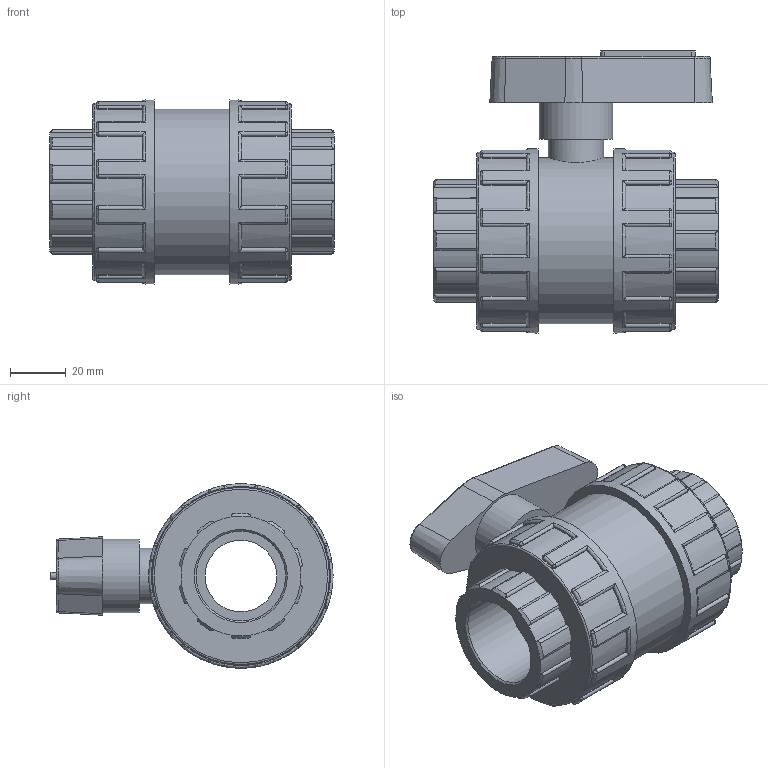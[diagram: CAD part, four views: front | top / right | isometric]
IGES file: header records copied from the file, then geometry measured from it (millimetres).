
Global section: file name: 11150032.ipt; native system: Autodesk Inventor 2015; preprocessor: unknown; author: KIM; date: 20171207.170214; units: millimetre
Bounding box: 102 x 100.98 x 66 mm (x, y, z)
Volume: 235490.9 mm3; surface area: 42076.2 mm2
Topology: 1 solids, 1 shells, 434 faces, 1085 edges, 662 vertices
Faces by surface type: cylinder 189, plane 114, revolution 59, sphere 48, cone 24
Full cylindrical faces by diameter (mm): 19.8 x1, 26.4 x1, 59.4 x1, 63.36 x2, 66 x2
